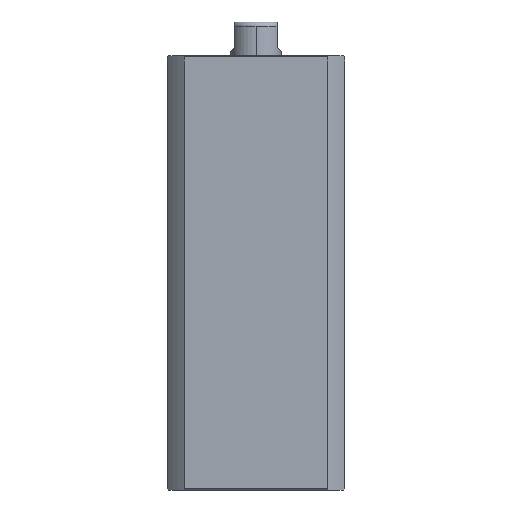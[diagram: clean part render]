
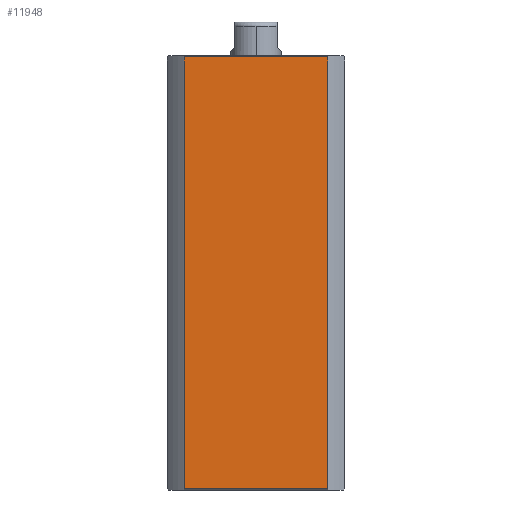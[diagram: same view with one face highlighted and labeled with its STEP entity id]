
A CAD part, left-side view. The second image highlights one B-rep face of the part: STEP entity #11948.
In plain terms, the highlighted planar face has unit normal (-1, 0, 0).
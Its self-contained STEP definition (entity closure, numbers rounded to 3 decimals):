
#47 = EDGE_CURVE ( 'NONE', #1922, #6718, #8393, .T. ) ;
#289 = CARTESIAN_POINT ( 'NONE',  ( -21., -16.971, -197. ) ) ;
#298 = VERTEX_POINT ( 'NONE', #8051 ) ;
#561 = CARTESIAN_POINT ( 'NONE',  ( -21., 21., 102.7 ) ) ;
#796 = CARTESIAN_POINT ( 'NONE',  ( -21., 21., 0.3 ) ) ;
#1357 = FACE_OUTER_BOUND ( 'NONE', #9027, .T. ) ;
#1369 = LINE ( 'NONE', #10612, #11045 ) ;
#1448 = ORIENTED_EDGE ( 'NONE', *, *, #47, .F. ) ;
#1922 = VERTEX_POINT ( 'NONE', #2815 ) ;
#2210 = LINE ( 'NONE', #796, #9135 ) ;
#2815 = CARTESIAN_POINT ( 'NONE',  ( -21., -16.971, 102.7 ) ) ;
#2982 = AXIS2_PLACEMENT_3D ( 'NONE', #11065, #5484, #12015 ) ;
#3133 = EDGE_CURVE ( 'NONE', #298, #7579, #1369, .T. ) ;
#3238 = VECTOR ( 'NONE', #9035, 1000. ) ;
#3695 = VECTOR ( 'NONE', #5955, 1000. ) ;
#4616 = ORIENTED_EDGE ( 'NONE', *, *, #5591, .T. ) ;
#5101 = ORIENTED_EDGE ( 'NONE', *, *, #8644, .T. ) ;
#5484 = DIRECTION ( 'NONE',  ( 1., 0., 0. ) ) ;
#5591 = EDGE_CURVE ( 'NONE', #298, #6718, #2210, .T. ) ;
#5751 = LINE ( 'NONE', #561, #3238 ) ;
#5845 = ORIENTED_EDGE ( 'NONE', *, *, #3133, .F. ) ;
#5955 = DIRECTION ( 'NONE',  ( 0., 0., -1. ) ) ;
#6000 = DIRECTION ( 'NONE',  ( 0., 0., 1. ) ) ;
#6405 = PLANE ( 'NONE',  #2982 ) ;
#6718 = VERTEX_POINT ( 'NONE', #9094 ) ;
#7579 = VERTEX_POINT ( 'NONE', #9841 ) ;
#8051 = CARTESIAN_POINT ( 'NONE',  ( -21., 16.971, 0.3 ) ) ;
#8393 = LINE ( 'NONE', #289, #3695 ) ;
#8644 = EDGE_CURVE ( 'NONE', #1922, #7579, #5751, .T. ) ;
#9027 = EDGE_LOOP ( 'NONE', ( #5845, #4616, #1448, #5101 ) ) ;
#9035 = DIRECTION ( 'NONE',  ( 0., 1., 0. ) ) ;
#9094 = CARTESIAN_POINT ( 'NONE',  ( -21., -16.971, 0.3 ) ) ;
#9135 = VECTOR ( 'NONE', #10215, 1000. ) ;
#9841 = CARTESIAN_POINT ( 'NONE',  ( -21., 16.971, 102.7 ) ) ;
#10215 = DIRECTION ( 'NONE',  ( 0., -1., 0. ) ) ;
#10612 = CARTESIAN_POINT ( 'NONE',  ( -21., 16.971, -197. ) ) ;
#11045 = VECTOR ( 'NONE', #6000, 1000. ) ;
#11065 = CARTESIAN_POINT ( 'NONE',  ( -21., 21., 103. ) ) ;
#11948 = ADVANCED_FACE ( 'NONE', ( #1357 ), #6405, .F. ) ;
#12015 = DIRECTION ( 'NONE',  ( 0., 1., 0. ) ) ;
